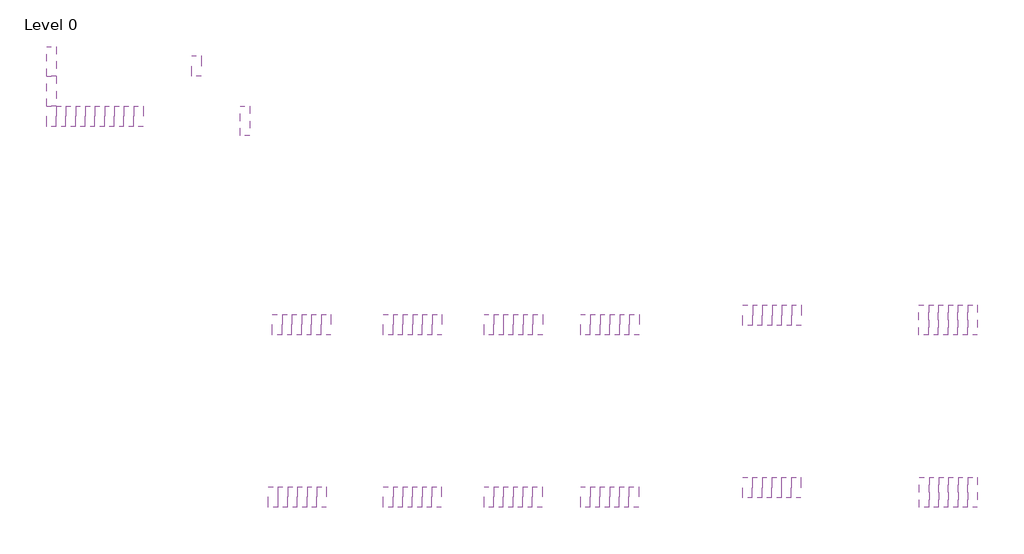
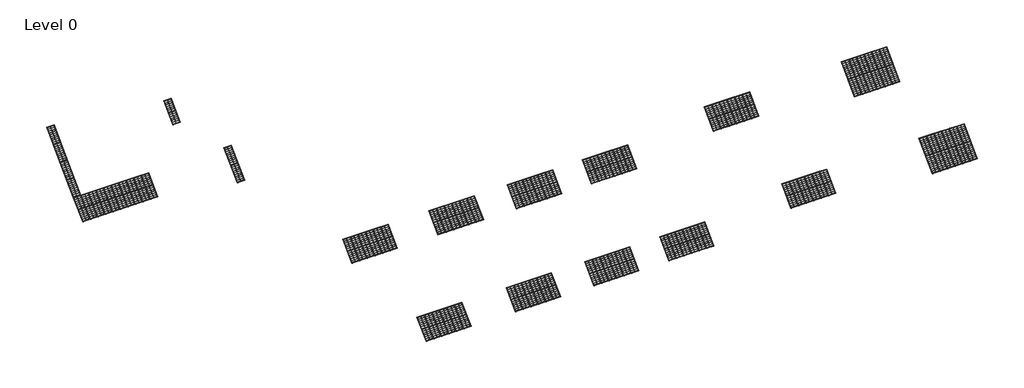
# One storey: 86 proxies.
"""IFC4 building model written with IfcOpenShell, lengths in millimetres."""

from ifc_helpers import new_model, si_unit, origin, place, context, project, spatial, transform, mapped, element, save
from components import specialty_equipment_90d8c1e8, specialty_equipment_4e519f52, specialty_equipment_16722cac, specialty_equipment_8a7c9f69, specialty_equipment_3c02a545, specialty_equipment_2c5f26d2

model = new_model("IFC4")

# Units and contexts
model_context = context("Model", 3, world=origin())
ifc_project = project(units=[si_unit("LENGTHUNIT", "METRE", prefix="MILLI")], contexts=[model_context])

# Site, building, storey
site = spatial("IfcSite", under=ifc_project)
building = spatial("IfcBuilding", under=site)
storey = spatial("IfcBuildingStorey", under=building, Name="Level 0", Elevation=0.0)

# Proxies
placement = place(None, origin())
specialty_equipment_shape = specialty_equipment_90d8c1e8(model_context)
element("IfcBuildingElementProxy", 1, Name="Construction-Roof_Roofit-Solar_velario-slim-t-2x18-180 : Velario Slim T-2x18/180", ObjectType="Construction-Roof_Roofit-Solar_velario-slim-t-2x18-180 : Velario Slim T-2x18/180", at=placement, inside=storey, context=model_context, shape_type="MappedRepresentation", body=[
    mapped(specialty_equipment_shape, transform((66153.258978, -14131.8745648, 4725.1380041), x_axis=(-1.0, 0.0, 0.0), y_axis=(0.0, -0.7071067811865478, -0.7071067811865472), z_axis=(0.0, -0.7071067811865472, 0.7071067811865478))),
])
element("IfcBuildingElementProxy", 2, Name="Construction-Roof_Roofit-Solar_velario-slim-t-2x18-180 : Velario Slim T-2x18/180", ObjectType="Construction-Roof_Roofit-Solar_velario-slim-t-2x18-180 : Velario Slim T-2x18/180", at=placement, inside=storey, context=model_context, shape_type="MappedRepresentation", body=[
    mapped(specialty_equipment_shape, transform((65682.258978, -14131.8745648, 4725.1380041), x_axis=(-1.0, 0.0, 0.0), y_axis=(0.0, -0.7071067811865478, -0.7071067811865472), z_axis=(0.0, -0.7071067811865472, 0.7071067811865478))),
])
element("IfcBuildingElementProxy", 3, Name="Construction-Roof_Roofit-Solar_velario-slim-t-2x18-180 : Velario Slim T-2x18/180", ObjectType="Construction-Roof_Roofit-Solar_velario-slim-t-2x18-180 : Velario Slim T-2x18/180", at=placement, inside=storey, context=model_context, shape_type="MappedRepresentation", body=[
    mapped(specialty_equipment_shape, transform((65211.258978, -14131.8745648, 4725.1380041), x_axis=(-1.0, 0.0, 0.0), y_axis=(0.0, -0.7071067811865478, -0.7071067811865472), z_axis=(0.0, -0.7071067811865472, 0.7071067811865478))),
])
element("IfcBuildingElementProxy", 4, Name="Construction-Roof_Roofit-Solar_velario-slim-t-2x18-180 : Velario Slim T-2x18/180", ObjectType="Construction-Roof_Roofit-Solar_velario-slim-t-2x18-180 : Velario Slim T-2x18/180", at=placement, inside=storey, context=model_context, shape_type="MappedRepresentation", body=[
    mapped(specialty_equipment_shape, transform((64740.258978, -14131.8745648, 4725.1380041), x_axis=(-1.0, 0.0, 0.0), y_axis=(0.0, -0.7071067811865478, -0.7071067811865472), z_axis=(0.0, -0.7071067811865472, 0.7071067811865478))),
])
element("IfcBuildingElementProxy", 5, Name="Construction-Roof_Roofit-Solar_velario-slim-t-2x18-180 : Velario Slim T-2x18/180", ObjectType="Construction-Roof_Roofit-Solar_velario-slim-t-2x18-180 : Velario Slim T-2x18/180", at=placement, inside=storey, context=model_context, shape_type="MappedRepresentation", body=[
    mapped(specialty_equipment_shape, transform((66624.258978, -14131.8745648, 4725.1380041), x_axis=(-1.0, 0.0, 0.0), y_axis=(0.0, -0.7071067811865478, -0.7071067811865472), z_axis=(0.0, -0.7071067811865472, 0.7071067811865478))),
])
element("IfcBuildingElementProxy", 6, Name="Construction-Roof_Roofit-Solar_velario-slim-t-2x18-180 : Velario Slim T-2x18/180", ObjectType="Construction-Roof_Roofit-Solar_velario-slim-t-2x18-180 : Velario Slim T-2x18/180", at=placement, inside=storey, context=model_context, shape_type="MappedRepresentation", body=[
    mapped(specialty_equipment_shape, transform((67095.258978, -14131.8745648, 4725.1380041), x_axis=(-1.0, 0.0, 0.0), y_axis=(0.0, -0.7071067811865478, -0.7071067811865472), z_axis=(0.0, -0.7071067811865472, 0.7071067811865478))),
])
element("IfcBuildingElementProxy", 7, Name="Construction-Roof_Roofit-Solar_velario-slim-t-2x18-180 : Velario Slim T-2x18/180", ObjectType="Construction-Roof_Roofit-Solar_velario-slim-t-2x18-180 : Velario Slim T-2x18/180", at=placement, inside=storey, context=model_context, shape_type="MappedRepresentation", body=[
    mapped(specialty_equipment_shape, transform((22240.258978, 5411.2263464, 6175.4140123), x_axis=(-1.0, 0.0, 0.0), y_axis=(0.0, -0.7071067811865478, -0.7071067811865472), z_axis=(0.0, -0.7071067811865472, 0.7071067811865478))),
])
element("IfcBuildingElementProxy", 8, Name="Construction-Roof_Roofit-Solar_velario-slim-t-2x18-180 : Velario Slim T-2x18/180", ObjectType="Construction-Roof_Roofit-Solar_velario-slim-t-2x18-180 : Velario Slim T-2x18/180", at=placement, inside=storey, context=model_context, shape_type="MappedRepresentation", body=[
    mapped(specialty_equipment_shape, transform((22240.258978, 6861.5023546, 7625.6900205), x_axis=(-1.0, 0.0, 0.0), y_axis=(0.0, -0.7071067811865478, -0.7071067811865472), z_axis=(0.0, -0.7071067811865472, 0.7071067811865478))),
])
element("IfcBuildingElementProxy", 9, Name="Construction-Roof_Roofit-Solar_velario-slim-t-2x18-180 : Velario Slim T-2x18/180", ObjectType="Construction-Roof_Roofit-Solar_velario-slim-t-2x18-180 : Velario Slim T-2x18/180", at=placement, inside=storey, context=model_context, shape_type="MappedRepresentation", body=[
    mapped(specialty_equipment_shape, transform((31660.258978, 3960.9503382, 4725.1380041), x_axis=(-1.0, 0.0, 0.0), y_axis=(0.0, -0.7071067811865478, -0.7071067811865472), z_axis=(0.0, -0.7071067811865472, 0.7071067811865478))),
])
specialty_equipment_2_shape = specialty_equipment_4e519f52(model_context)
element("IfcBuildingElementProxy", 10, Name="Construction-Roof_Roofit-Solar_velario-slim-t-2x18-120 : Velario Slim T-2x12/120", ObjectType="Construction-Roof_Roofit-Solar_velario-slim-t-2x18-120 : Velario Slim T-2x12/120", at=placement, inside=storey, context=model_context, shape_type="MappedRepresentation", body=[
    mapped(specialty_equipment_2_shape, transform((40995.258978, -14358.8558415, 4498.1567273), x_axis=(-1.0, 0.0, 0.0), y_axis=(0.0, -0.7071067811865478, -0.7071067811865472), z_axis=(0.0, -0.7071067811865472, 0.7071067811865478))),
])
element("IfcBuildingElementProxy", 11, Name="Construction-Roof_Roofit-Solar_velario-slim-t-2x18-120 : Velario Slim T-2x12/120", ObjectType="Construction-Roof_Roofit-Solar_velario-slim-t-2x18-120 : Velario Slim T-2x12/120", at=placement, inside=storey, context=model_context, shape_type="MappedRepresentation", body=[
    mapped(specialty_equipment_2_shape, transform((40524.258978, -14358.8558415, 4498.1567273), x_axis=(-1.0, 0.0, 0.0), y_axis=(0.0, -0.7071067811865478, -0.7071067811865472), z_axis=(0.0, -0.7071067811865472, 0.7071067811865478))),
])
element("IfcBuildingElementProxy", 12, Name="Construction-Roof_Roofit-Solar_velario-slim-t-2x18-120 : Velario Slim T-2x12/120", ObjectType="Construction-Roof_Roofit-Solar_velario-slim-t-2x18-120 : Velario Slim T-2x12/120", at=placement, inside=storey, context=model_context, shape_type="MappedRepresentation", body=[
    mapped(specialty_equipment_2_shape, transform((40053.258978, -14358.8558415, 4498.1567273), x_axis=(-1.0, 0.0, 0.0), y_axis=(0.0, -0.7071067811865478, -0.7071067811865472), z_axis=(0.0, -0.7071067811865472, 0.7071067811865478))),
])
element("IfcBuildingElementProxy", 13, Name="Construction-Roof_Roofit-Solar_velario-slim-t-2x18-120 : Velario Slim T-2x12/120", ObjectType="Construction-Roof_Roofit-Solar_velario-slim-t-2x18-120 : Velario Slim T-2x12/120", at=placement, inside=storey, context=model_context, shape_type="MappedRepresentation", body=[
    mapped(specialty_equipment_2_shape, transform((39582.258978, -14358.8558415, 4498.1567273), x_axis=(-1.0, 0.0, 0.0), y_axis=(0.0, -0.7071067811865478, -0.7071067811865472), z_axis=(0.0, -0.7071067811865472, 0.7071067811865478))),
])
element("IfcBuildingElementProxy", 14, Name="Construction-Roof_Roofit-Solar_velario-slim-t-2x18-120 : Velario Slim T-2x12/120", ObjectType="Construction-Roof_Roofit-Solar_velario-slim-t-2x18-120 : Velario Slim T-2x12/120", at=placement, inside=storey, context=model_context, shape_type="MappedRepresentation", body=[
    mapped(specialty_equipment_2_shape, transform((39111.258978, -14358.8558415, 4498.1567273), x_axis=(-1.0, 0.0, 0.0), y_axis=(0.0, -0.7071067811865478, -0.7071067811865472), z_axis=(0.0, -0.7071067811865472, 0.7071067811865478))),
])
element("IfcBuildingElementProxy", 15, Name="Construction-Roof_Roofit-Solar_velario-slim-t-2x18-120 : Velario Slim T-2x12/120", ObjectType="Construction-Roof_Roofit-Solar_velario-slim-t-2x18-120 : Velario Slim T-2x12/120", at=placement, inside=storey, context=model_context, shape_type="MappedRepresentation", body=[
    mapped(specialty_equipment_2_shape, transform((38640.258978, -14358.8558415, 4498.1567273), x_axis=(-1.0, 0.0, 0.0), y_axis=(0.0, -0.7071067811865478, -0.7071067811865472), z_axis=(0.0, -0.7071067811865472, 0.7071067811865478))),
])
element("IfcBuildingElementProxy", 16, Name="Construction-Roof_Roofit-Solar_velario-slim-t-2x18-120 : Velario Slim T-2x12/120", ObjectType="Construction-Roof_Roofit-Solar_velario-slim-t-2x18-120 : Velario Slim T-2x12/120", at=placement, inside=storey, context=model_context, shape_type="MappedRepresentation", body=[
    mapped(specialty_equipment_2_shape, transform((45895.258978, -14358.8558415, 4498.1567273), x_axis=(-1.0, 0.0, 0.0), y_axis=(0.0, -0.7071067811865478, -0.7071067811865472), z_axis=(0.0, -0.7071067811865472, 0.7071067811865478))),
])
element("IfcBuildingElementProxy", 17, Name="Construction-Roof_Roofit-Solar_velario-slim-t-2x18-120 : Velario Slim T-2x12/120", ObjectType="Construction-Roof_Roofit-Solar_velario-slim-t-2x18-120 : Velario Slim T-2x12/120", at=placement, inside=storey, context=model_context, shape_type="MappedRepresentation", body=[
    mapped(specialty_equipment_2_shape, transform((45424.258978, -14358.8558415, 4498.1567273), x_axis=(-1.0, 0.0, 0.0), y_axis=(0.0, -0.7071067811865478, -0.7071067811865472), z_axis=(0.0, -0.7071067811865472, 0.7071067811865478))),
])
element("IfcBuildingElementProxy", 18, Name="Construction-Roof_Roofit-Solar_velario-slim-t-2x18-120 : Velario Slim T-2x12/120", ObjectType="Construction-Roof_Roofit-Solar_velario-slim-t-2x18-120 : Velario Slim T-2x12/120", at=placement, inside=storey, context=model_context, shape_type="MappedRepresentation", body=[
    mapped(specialty_equipment_2_shape, transform((44953.258978, -14358.8558415, 4498.1567273), x_axis=(-1.0, 0.0, 0.0), y_axis=(0.0, -0.7071067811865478, -0.7071067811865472), z_axis=(0.0, -0.7071067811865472, 0.7071067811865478))),
])
element("IfcBuildingElementProxy", 19, Name="Construction-Roof_Roofit-Solar_velario-slim-t-2x18-120 : Velario Slim T-2x12/120", ObjectType="Construction-Roof_Roofit-Solar_velario-slim-t-2x18-120 : Velario Slim T-2x12/120", at=placement, inside=storey, context=model_context, shape_type="MappedRepresentation", body=[
    mapped(specialty_equipment_2_shape, transform((44482.258978, -14358.8558415, 4498.1567273), x_axis=(-1.0, 0.0, 0.0), y_axis=(0.0, -0.7071067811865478, -0.7071067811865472), z_axis=(0.0, -0.7071067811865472, 0.7071067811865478))),
])
element("IfcBuildingElementProxy", 20, Name="Construction-Roof_Roofit-Solar_velario-slim-t-2x18-120 : Velario Slim T-2x12/120", ObjectType="Construction-Roof_Roofit-Solar_velario-slim-t-2x18-120 : Velario Slim T-2x12/120", at=placement, inside=storey, context=model_context, shape_type="MappedRepresentation", body=[
    mapped(specialty_equipment_2_shape, transform((44011.258978, -14358.8558415, 4498.1567273), x_axis=(-1.0, 0.0, 0.0), y_axis=(0.0, -0.7071067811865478, -0.7071067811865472), z_axis=(0.0, -0.7071067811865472, 0.7071067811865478))),
])
element("IfcBuildingElementProxy", 21, Name="Construction-Roof_Roofit-Solar_velario-slim-t-2x18-120 : Velario Slim T-2x12/120", ObjectType="Construction-Roof_Roofit-Solar_velario-slim-t-2x18-120 : Velario Slim T-2x12/120", at=placement, inside=storey, context=model_context, shape_type="MappedRepresentation", body=[
    mapped(specialty_equipment_2_shape, transform((43540.258978, -14358.8558415, 4498.1567273), x_axis=(-1.0, 0.0, 0.0), y_axis=(0.0, -0.7071067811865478, -0.7071067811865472), z_axis=(0.0, -0.7071067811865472, 0.7071067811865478))),
])
element("IfcBuildingElementProxy", 22, Name="Construction-Roof_Roofit-Solar_velario-slim-t-2x18-120 : Velario Slim T-2x12/120", ObjectType="Construction-Roof_Roofit-Solar_velario-slim-t-2x18-120 : Velario Slim T-2x12/120", at=placement, inside=storey, context=model_context, shape_type="MappedRepresentation", body=[
    mapped(specialty_equipment_2_shape, transform((50595.258978, -14358.8558415, 4498.1567273), x_axis=(-1.0, 0.0, 0.0), y_axis=(0.0, -0.7071067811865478, -0.7071067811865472), z_axis=(0.0, -0.7071067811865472, 0.7071067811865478))),
])
element("IfcBuildingElementProxy", 23, Name="Construction-Roof_Roofit-Solar_velario-slim-t-2x18-120 : Velario Slim T-2x12/120", ObjectType="Construction-Roof_Roofit-Solar_velario-slim-t-2x18-120 : Velario Slim T-2x12/120", at=placement, inside=storey, context=model_context, shape_type="MappedRepresentation", body=[
    mapped(specialty_equipment_2_shape, transform((50124.258978, -14358.8558415, 4498.1567273), x_axis=(-1.0, 0.0, 0.0), y_axis=(0.0, -0.7071067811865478, -0.7071067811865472), z_axis=(0.0, -0.7071067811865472, 0.7071067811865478))),
])
element("IfcBuildingElementProxy", 24, Name="Construction-Roof_Roofit-Solar_velario-slim-t-2x18-120 : Velario Slim T-2x12/120", ObjectType="Construction-Roof_Roofit-Solar_velario-slim-t-2x18-120 : Velario Slim T-2x12/120", at=placement, inside=storey, context=model_context, shape_type="MappedRepresentation", body=[
    mapped(specialty_equipment_2_shape, transform((49653.258978, -14358.8558415, 4498.1567273), x_axis=(-1.0, 0.0, 0.0), y_axis=(0.0, -0.7071067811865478, -0.7071067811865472), z_axis=(0.0, -0.7071067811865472, 0.7071067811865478))),
])
element("IfcBuildingElementProxy", 25, Name="Construction-Roof_Roofit-Solar_velario-slim-t-2x18-120 : Velario Slim T-2x12/120", ObjectType="Construction-Roof_Roofit-Solar_velario-slim-t-2x18-120 : Velario Slim T-2x12/120", at=placement, inside=storey, context=model_context, shape_type="MappedRepresentation", body=[
    mapped(specialty_equipment_2_shape, transform((49182.258978, -14358.8558415, 4498.1567273), x_axis=(-1.0, 0.0, 0.0), y_axis=(0.0, -0.7071067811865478, -0.7071067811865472), z_axis=(0.0, -0.7071067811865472, 0.7071067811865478))),
])
element("IfcBuildingElementProxy", 26, Name="Construction-Roof_Roofit-Solar_velario-slim-t-2x18-120 : Velario Slim T-2x12/120", ObjectType="Construction-Roof_Roofit-Solar_velario-slim-t-2x18-120 : Velario Slim T-2x12/120", at=placement, inside=storey, context=model_context, shape_type="MappedRepresentation", body=[
    mapped(specialty_equipment_2_shape, transform((48711.258978, -14358.8558415, 4498.1567273), x_axis=(-1.0, 0.0, 0.0), y_axis=(0.0, -0.7071067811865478, -0.7071067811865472), z_axis=(0.0, -0.7071067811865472, 0.7071067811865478))),
])
element("IfcBuildingElementProxy", 27, Name="Construction-Roof_Roofit-Solar_velario-slim-t-2x18-120 : Velario Slim T-2x12/120", ObjectType="Construction-Roof_Roofit-Solar_velario-slim-t-2x18-120 : Velario Slim T-2x12/120", at=placement, inside=storey, context=model_context, shape_type="MappedRepresentation", body=[
    mapped(specialty_equipment_2_shape, transform((48240.258978, -14358.8558415, 4498.1567273), x_axis=(-1.0, 0.0, 0.0), y_axis=(0.0, -0.7071067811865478, -0.7071067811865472), z_axis=(0.0, -0.7071067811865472, 0.7071067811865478))),
])
element("IfcBuildingElementProxy", 28, Name="Construction-Roof_Roofit-Solar_velario-slim-t-2x18-120 : Velario Slim T-2x12/120", ObjectType="Construction-Roof_Roofit-Solar_velario-slim-t-2x18-120 : Velario Slim T-2x12/120", at=placement, inside=storey, context=model_context, shape_type="MappedRepresentation", body=[
    mapped(specialty_equipment_2_shape, transform((29305.258978, 6634.5210778, 7398.7087438), x_axis=(-1.0, 0.0, 0.0), y_axis=(0.0, -0.7071067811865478, -0.7071067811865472), z_axis=(0.0, -0.7071067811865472, 0.7071067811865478))),
])
element("IfcBuildingElementProxy", 29, Name="Construction-Roof_Roofit-Solar_velario-slim-t-2x18-120 : Velario Slim T-2x12/120", ObjectType="Construction-Roof_Roofit-Solar_velario-slim-t-2x18-120 : Velario Slim T-2x12/120", at=placement, inside=storey, context=model_context, shape_type="MappedRepresentation", body=[
    mapped(specialty_equipment_2_shape, transform((35395.258978, -14358.8558415, 4498.1567273), x_axis=(-1.0, 0.0, 0.0), y_axis=(0.0, -0.7071067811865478, -0.7071067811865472), z_axis=(0.0, -0.7071067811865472, 0.7071067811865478))),
])
element("IfcBuildingElementProxy", 30, Name="Construction-Roof_Roofit-Solar_velario-slim-t-2x18-120 : Velario Slim T-2x12/120", ObjectType="Construction-Roof_Roofit-Solar_velario-slim-t-2x18-120 : Velario Slim T-2x12/120", at=placement, inside=storey, context=model_context, shape_type="MappedRepresentation", body=[
    mapped(specialty_equipment_2_shape, transform((34924.258978, -14358.8558415, 4498.1567273), x_axis=(-1.0, 0.0, 0.0), y_axis=(0.0, -0.7071067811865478, -0.7071067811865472), z_axis=(0.0, -0.7071067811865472, 0.7071067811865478))),
])
element("IfcBuildingElementProxy", 31, Name="Construction-Roof_Roofit-Solar_velario-slim-t-2x18-120 : Velario Slim T-2x12/120", ObjectType="Construction-Roof_Roofit-Solar_velario-slim-t-2x18-120 : Velario Slim T-2x12/120", at=placement, inside=storey, context=model_context, shape_type="MappedRepresentation", body=[
    mapped(specialty_equipment_2_shape, transform((34453.258978, -14358.8558415, 4498.1567273), x_axis=(-1.0, 0.0, 0.0), y_axis=(0.0, -0.7071067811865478, -0.7071067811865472), z_axis=(0.0, -0.7071067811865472, 0.7071067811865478))),
])
element("IfcBuildingElementProxy", 32, Name="Construction-Roof_Roofit-Solar_velario-slim-t-2x18-120 : Velario Slim T-2x12/120", ObjectType="Construction-Roof_Roofit-Solar_velario-slim-t-2x18-120 : Velario Slim T-2x12/120", at=placement, inside=storey, context=model_context, shape_type="MappedRepresentation", body=[
    mapped(specialty_equipment_2_shape, transform((33982.258978, -14358.8558415, 4498.1567273), x_axis=(-1.0, 0.0, 0.0), y_axis=(0.0, -0.7071067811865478, -0.7071067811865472), z_axis=(0.0, -0.7071067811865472, 0.7071067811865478))),
])
element("IfcBuildingElementProxy", 33, Name="Construction-Roof_Roofit-Solar_velario-slim-t-2x18-120 : Velario Slim T-2x12/120", ObjectType="Construction-Roof_Roofit-Solar_velario-slim-t-2x18-120 : Velario Slim T-2x12/120", at=placement, inside=storey, context=model_context, shape_type="MappedRepresentation", body=[
    mapped(specialty_equipment_2_shape, transform((33511.258978, -14358.8558415, 4498.1567273), x_axis=(-1.0, 0.0, 0.0), y_axis=(0.0, -0.7071067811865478, -0.7071067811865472), z_axis=(0.0, -0.7071067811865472, 0.7071067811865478))),
])
element("IfcBuildingElementProxy", 34, Name="Construction-Roof_Roofit-Solar_velario-slim-t-2x18-120 : Velario Slim T-2x12/120", ObjectType="Construction-Roof_Roofit-Solar_velario-slim-t-2x18-120 : Velario Slim T-2x12/120", at=placement, inside=storey, context=model_context, shape_type="MappedRepresentation", body=[
    mapped(specialty_equipment_2_shape, transform((33040.258978, -14358.8558415, 4498.1567273), x_axis=(-1.0, 0.0, 0.0), y_axis=(0.0, -0.7071067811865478, -0.7071067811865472), z_axis=(0.0, -0.7071067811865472, 0.7071067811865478))),
])
specialty_equipment_3_shape = specialty_equipment_16722cac(model_context)
element("IfcBuildingElementProxy", 35, Name="Construction-Roof_Roofit-Solar_velario-slim-t-2x12-120-sg : Velario Slim T-2x12/120 Snowguard", ObjectType="Construction-Roof_Roofit-Solar_velario-slim-t-2x12-120-sg : Velario Slim T-2x12/120 Snowguard", at=placement, inside=storey, context=model_context, shape_type="MappedRepresentation", body=[
    mapped(specialty_equipment_3_shape, transform((56140.258978, -13907.7217151, 4949.2908537), x_axis=(-1.0, 0.0, 0.0), y_axis=(0.0, -0.7071067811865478, -0.7071067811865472), z_axis=(0.0, -0.7071067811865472, 0.7071067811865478))),
])
element("IfcBuildingElementProxy", 36, Name="Construction-Roof_Roofit-Solar_velario-slim-t-2x12-120-sg : Velario Slim T-2x12/120 Snowguard", ObjectType="Construction-Roof_Roofit-Solar_velario-slim-t-2x12-120-sg : Velario Slim T-2x12/120 Snowguard", at=placement, inside=storey, context=model_context, shape_type="MappedRepresentation", body=[
    mapped(specialty_equipment_3_shape, transform((56611.258978, -13907.7217151, 4949.2908537), x_axis=(-1.0, 0.0, 0.0), y_axis=(0.0, -0.7071067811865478, -0.7071067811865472), z_axis=(0.0, -0.7071067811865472, 0.7071067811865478))),
])
element("IfcBuildingElementProxy", 37, Name="Construction-Roof_Roofit-Solar_velario-slim-t-2x12-120-sg : Velario Slim T-2x12/120 Snowguard", ObjectType="Construction-Roof_Roofit-Solar_velario-slim-t-2x12-120-sg : Velario Slim T-2x12/120 Snowguard", at=placement, inside=storey, context=model_context, shape_type="MappedRepresentation", body=[
    mapped(specialty_equipment_3_shape, transform((57082.258978, -13907.7217151, 4949.2908537), x_axis=(-1.0, 0.0, 0.0), y_axis=(0.0, -0.7071067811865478, -0.7071067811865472), z_axis=(0.0, -0.7071067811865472, 0.7071067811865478))),
])
element("IfcBuildingElementProxy", 38, Name="Construction-Roof_Roofit-Solar_velario-slim-t-2x12-120-sg : Velario Slim T-2x12/120 Snowguard", ObjectType="Construction-Roof_Roofit-Solar_velario-slim-t-2x12-120-sg : Velario Slim T-2x12/120 Snowguard", at=placement, inside=storey, context=model_context, shape_type="MappedRepresentation", body=[
    mapped(specialty_equipment_3_shape, transform((57553.258978, -13907.7217151, 4949.2908537), x_axis=(-1.0, 0.0, 0.0), y_axis=(0.0, -0.7071067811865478, -0.7071067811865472), z_axis=(0.0, -0.7071067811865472, 0.7071067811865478))),
])
element("IfcBuildingElementProxy", 39, Name="Construction-Roof_Roofit-Solar_velario-slim-t-2x12-120-sg : Velario Slim T-2x12/120 Snowguard", ObjectType="Construction-Roof_Roofit-Solar_velario-slim-t-2x12-120-sg : Velario Slim T-2x12/120 Snowguard", at=placement, inside=storey, context=model_context, shape_type="MappedRepresentation", body=[
    mapped(specialty_equipment_3_shape, transform((58024.258978, -13907.7217151, 4949.2908537), x_axis=(-1.0, 0.0, 0.0), y_axis=(0.0, -0.7071067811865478, -0.7071067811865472), z_axis=(0.0, -0.7071067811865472, 0.7071067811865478))),
])
element("IfcBuildingElementProxy", 40, Name="Construction-Roof_Roofit-Solar_velario-slim-t-2x12-120-sg : Velario Slim T-2x12/120 Snowguard", ObjectType="Construction-Roof_Roofit-Solar_velario-slim-t-2x12-120-sg : Velario Slim T-2x12/120 Snowguard", at=placement, inside=storey, context=model_context, shape_type="MappedRepresentation", body=[
    mapped(specialty_equipment_3_shape, transform((58495.258978, -13907.7217151, 4949.2908537), x_axis=(-1.0, 0.0, 0.0), y_axis=(0.0, -0.7071067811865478, -0.7071067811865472), z_axis=(0.0, -0.7071067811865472, 0.7071067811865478))),
])
element("IfcBuildingElementProxy", 41, Name="Construction-Roof_Roofit-Solar_velario-slim-t-2x12-120-sg : Velario Slim T-2x12/120 Snowguard", ObjectType="Construction-Roof_Roofit-Solar_velario-slim-t-2x12-120-sg : Velario Slim T-2x12/120 Snowguard", at=placement, inside=storey, context=model_context, shape_type="MappedRepresentation", body=[
    mapped(specialty_equipment_3_shape, transform((22240.258978, 4185.1031878, 4949.2908537), x_axis=(-1.0, 0.0, 0.0), y_axis=(0.0, -0.7071067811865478, -0.7071067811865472), z_axis=(0.0, -0.7071067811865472, 0.7071067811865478))),
])
element("IfcBuildingElementProxy", 42, Name="Construction-Roof_Roofit-Solar_velario-slim-t-2x12-120-sg : Velario Slim T-2x12/120 Snowguard", ObjectType="Construction-Roof_Roofit-Solar_velario-slim-t-2x12-120-sg : Velario Slim T-2x12/120 Snowguard", at=placement, inside=storey, context=model_context, shape_type="MappedRepresentation", body=[
    mapped(specialty_equipment_3_shape, transform((22711.258978, 4185.1031878, 4949.2908537), x_axis=(-1.0, 0.0, 0.0), y_axis=(0.0, -0.7071067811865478, -0.7071067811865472), z_axis=(0.0, -0.7071067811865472, 0.7071067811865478))),
])
element("IfcBuildingElementProxy", 43, Name="Construction-Roof_Roofit-Solar_velario-slim-t-2x12-120-sg : Velario Slim T-2x12/120 Snowguard", ObjectType="Construction-Roof_Roofit-Solar_velario-slim-t-2x12-120-sg : Velario Slim T-2x12/120 Snowguard", at=placement, inside=storey, context=model_context, shape_type="MappedRepresentation", body=[
    mapped(specialty_equipment_3_shape, transform((23182.258978, 4185.1031878, 4949.2908537), x_axis=(-1.0, 0.0, 0.0), y_axis=(0.0, -0.7071067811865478, -0.7071067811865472), z_axis=(0.0, -0.7071067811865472, 0.7071067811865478))),
])
element("IfcBuildingElementProxy", 44, Name="Construction-Roof_Roofit-Solar_velario-slim-t-2x12-120-sg : Velario Slim T-2x12/120 Snowguard", ObjectType="Construction-Roof_Roofit-Solar_velario-slim-t-2x12-120-sg : Velario Slim T-2x12/120 Snowguard", at=placement, inside=storey, context=model_context, shape_type="MappedRepresentation", body=[
    mapped(specialty_equipment_3_shape, transform((23653.258978, 4185.1031878, 4949.2908537), x_axis=(-1.0, 0.0, 0.0), y_axis=(0.0, -0.7071067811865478, -0.7071067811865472), z_axis=(0.0, -0.7071067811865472, 0.7071067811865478))),
])
element("IfcBuildingElementProxy", 45, Name="Construction-Roof_Roofit-Solar_velario-slim-t-2x12-120-sg : Velario Slim T-2x12/120 Snowguard", ObjectType="Construction-Roof_Roofit-Solar_velario-slim-t-2x12-120-sg : Velario Slim T-2x12/120 Snowguard", at=placement, inside=storey, context=model_context, shape_type="MappedRepresentation", body=[
    mapped(specialty_equipment_3_shape, transform((24124.258978, 4185.1031878, 4949.2908537), x_axis=(-1.0, 0.0, 0.0), y_axis=(0.0, -0.7071067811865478, -0.7071067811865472), z_axis=(0.0, -0.7071067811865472, 0.7071067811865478))),
])
element("IfcBuildingElementProxy", 46, Name="Construction-Roof_Roofit-Solar_velario-slim-t-2x12-120-sg : Velario Slim T-2x12/120 Snowguard", ObjectType="Construction-Roof_Roofit-Solar_velario-slim-t-2x12-120-sg : Velario Slim T-2x12/120 Snowguard", at=placement, inside=storey, context=model_context, shape_type="MappedRepresentation", body=[
    mapped(specialty_equipment_3_shape, transform((24595.258978, 4185.1031878, 4949.2908537), x_axis=(-1.0, 0.0, 0.0), y_axis=(0.0, -0.7071067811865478, -0.7071067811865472), z_axis=(0.0, -0.7071067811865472, 0.7071067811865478))),
])
element("IfcBuildingElementProxy", 47, Name="Construction-Roof_Roofit-Solar_velario-slim-t-2x12-120-sg : Velario Slim T-2x12/120 Snowguard", ObjectType="Construction-Roof_Roofit-Solar_velario-slim-t-2x12-120-sg : Velario Slim T-2x12/120 Snowguard", at=placement, inside=storey, context=model_context, shape_type="MappedRepresentation", body=[
    mapped(specialty_equipment_3_shape, transform((25066.258978, 4185.1031878, 4949.2908537), x_axis=(-1.0, 0.0, 0.0), y_axis=(0.0, -0.7071067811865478, -0.7071067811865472), z_axis=(0.0, -0.7071067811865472, 0.7071067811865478))),
])
element("IfcBuildingElementProxy", 48, Name="Construction-Roof_Roofit-Solar_velario-slim-t-2x12-120-sg : Velario Slim T-2x12/120 Snowguard", ObjectType="Construction-Roof_Roofit-Solar_velario-slim-t-2x12-120-sg : Velario Slim T-2x12/120 Snowguard", at=placement, inside=storey, context=model_context, shape_type="MappedRepresentation", body=[
    mapped(specialty_equipment_3_shape, transform((25537.258978, 4185.1031878, 4949.2908537), x_axis=(-1.0, 0.0, 0.0), y_axis=(0.0, -0.7071067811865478, -0.7071067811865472), z_axis=(0.0, -0.7071067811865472, 0.7071067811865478))),
])
element("IfcBuildingElementProxy", 49, Name="Construction-Roof_Roofit-Solar_velario-slim-t-2x12-120-sg : Velario Slim T-2x12/120 Snowguard", ObjectType="Construction-Roof_Roofit-Solar_velario-slim-t-2x12-120-sg : Velario Slim T-2x12/120 Snowguard", at=placement, inside=storey, context=model_context, shape_type="MappedRepresentation", body=[
    mapped(specialty_equipment_3_shape, transform((26008.258978, 4185.1031878, 4949.2908537), x_axis=(-1.0, 0.0, 0.0), y_axis=(0.0, -0.7071067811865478, -0.7071067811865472), z_axis=(0.0, -0.7071067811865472, 0.7071067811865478))),
])
element("IfcBuildingElementProxy", 50, Name="Construction-Roof_Roofit-Solar_velario-slim-t-2x12-120-sg : Velario Slim T-2x12/120 Snowguard", ObjectType="Construction-Roof_Roofit-Solar_velario-slim-t-2x12-120-sg : Velario Slim T-2x12/120 Snowguard", at=placement, inside=storey, context=model_context, shape_type="MappedRepresentation", body=[
    mapped(specialty_equipment_3_shape, transform((26479.258978, 4185.1031878, 4949.2908537), x_axis=(-1.0, 0.0, 0.0), y_axis=(0.0, -0.7071067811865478, -0.7071067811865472), z_axis=(0.0, -0.7071067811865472, 0.7071067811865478))),
])
specialty_equipment_4_shape = specialty_equipment_8a7c9f69(model_context)
element("IfcBuildingElementProxy", 51, Name="Construction-Roof_Roofit-Solar_nu-click-t-2x18-120 : NuClick T-2x12/120", ObjectType="Construction-Roof_Roofit-Solar_nu-click-t-2x18-120 : NuClick T-2x12/120", at=placement, inside=storey, context=model_context, shape_type="MappedRepresentation", body=[
    mapped(specialty_equipment_4_shape, transform((38642.258978, -5958.8558415, 4498.1567273), x_axis=(-1.0, 0.0, 0.0), y_axis=(0.0, -0.7071067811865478, -0.7071067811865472), z_axis=(0.0, -0.7071067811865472, 0.7071067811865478))),
])
element("IfcBuildingElementProxy", 52, Name="Construction-Roof_Roofit-Solar_nu-click-t-2x18-120 : NuClick T-2x12/120", ObjectType="Construction-Roof_Roofit-Solar_nu-click-t-2x18-120 : NuClick T-2x12/120", at=placement, inside=storey, context=model_context, shape_type="MappedRepresentation", body=[
    mapped(specialty_equipment_4_shape, transform((39117.258978, -5958.8558415, 4498.1567273), x_axis=(-1.0, 0.0, 0.0), y_axis=(0.0, -0.7071067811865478, -0.7071067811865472), z_axis=(0.0, -0.7071067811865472, 0.7071067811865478))),
])
element("IfcBuildingElementProxy", 53, Name="Construction-Roof_Roofit-Solar_nu-click-t-2x18-120 : NuClick T-2x12/120", ObjectType="Construction-Roof_Roofit-Solar_nu-click-t-2x18-120 : NuClick T-2x12/120", at=placement, inside=storey, context=model_context, shape_type="MappedRepresentation", body=[
    mapped(specialty_equipment_4_shape, transform((39592.258978, -5958.8558415, 4498.1567273), x_axis=(-1.0, 0.0, 0.0), y_axis=(0.0, -0.7071067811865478, -0.7071067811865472), z_axis=(0.0, -0.7071067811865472, 0.7071067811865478))),
])
element("IfcBuildingElementProxy", 54, Name="Construction-Roof_Roofit-Solar_nu-click-t-2x18-120 : NuClick T-2x12/120", ObjectType="Construction-Roof_Roofit-Solar_nu-click-t-2x18-120 : NuClick T-2x12/120", at=placement, inside=storey, context=model_context, shape_type="MappedRepresentation", body=[
    mapped(specialty_equipment_4_shape, transform((40067.258978, -5958.8558415, 4498.1567273), x_axis=(-1.0, 0.0, 0.0), y_axis=(0.0, -0.7071067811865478, -0.7071067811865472), z_axis=(0.0, -0.7071067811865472, 0.7071067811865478))),
])
element("IfcBuildingElementProxy", 55, Name="Construction-Roof_Roofit-Solar_nu-click-t-2x18-120 : NuClick T-2x12/120", ObjectType="Construction-Roof_Roofit-Solar_nu-click-t-2x18-120 : NuClick T-2x12/120", at=placement, inside=storey, context=model_context, shape_type="MappedRepresentation", body=[
    mapped(specialty_equipment_4_shape, transform((40542.258978, -5958.8558415, 4498.1567273), x_axis=(-1.0, 0.0, 0.0), y_axis=(0.0, -0.7071067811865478, -0.7071067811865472), z_axis=(0.0, -0.7071067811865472, 0.7071067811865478))),
])
element("IfcBuildingElementProxy", 56, Name="Construction-Roof_Roofit-Solar_nu-click-t-2x18-120 : NuClick T-2x12/120", ObjectType="Construction-Roof_Roofit-Solar_nu-click-t-2x18-120 : NuClick T-2x12/120", at=placement, inside=storey, context=model_context, shape_type="MappedRepresentation", body=[
    mapped(specialty_equipment_4_shape, transform((41017.258978, -5958.8558415, 4498.1567273), x_axis=(-1.0, 0.0, 0.0), y_axis=(0.0, -0.7071067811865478, -0.7071067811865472), z_axis=(0.0, -0.7071067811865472, 0.7071067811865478))),
])
element("IfcBuildingElementProxy", 57, Name="Construction-Roof_Roofit-Solar_nu-click-t-2x18-120 : NuClick T-2x12/120", ObjectType="Construction-Roof_Roofit-Solar_nu-click-t-2x18-120 : NuClick T-2x12/120", at=placement, inside=storey, context=model_context, shape_type="MappedRepresentation", body=[
    mapped(specialty_equipment_4_shape, transform((43542.258978, -5958.8558415, 4498.1567273), x_axis=(-1.0, 0.0, 0.0), y_axis=(0.0, -0.7071067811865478, -0.7071067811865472), z_axis=(0.0, -0.7071067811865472, 0.7071067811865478))),
])
element("IfcBuildingElementProxy", 58, Name="Construction-Roof_Roofit-Solar_nu-click-t-2x18-120 : NuClick T-2x12/120", ObjectType="Construction-Roof_Roofit-Solar_nu-click-t-2x18-120 : NuClick T-2x12/120", at=placement, inside=storey, context=model_context, shape_type="MappedRepresentation", body=[
    mapped(specialty_equipment_4_shape, transform((44017.258978, -5958.8558415, 4498.1567273), x_axis=(-1.0, 0.0, 0.0), y_axis=(0.0, -0.7071067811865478, -0.7071067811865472), z_axis=(0.0, -0.7071067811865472, 0.7071067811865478))),
])
element("IfcBuildingElementProxy", 59, Name="Construction-Roof_Roofit-Solar_nu-click-t-2x18-120 : NuClick T-2x12/120", ObjectType="Construction-Roof_Roofit-Solar_nu-click-t-2x18-120 : NuClick T-2x12/120", at=placement, inside=storey, context=model_context, shape_type="MappedRepresentation", body=[
    mapped(specialty_equipment_4_shape, transform((44492.258978, -5958.8558415, 4498.1567273), x_axis=(-1.0, 0.0, 0.0), y_axis=(0.0, -0.7071067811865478, -0.7071067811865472), z_axis=(0.0, -0.7071067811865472, 0.7071067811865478))),
])
element("IfcBuildingElementProxy", 60, Name="Construction-Roof_Roofit-Solar_nu-click-t-2x18-120 : NuClick T-2x12/120", ObjectType="Construction-Roof_Roofit-Solar_nu-click-t-2x18-120 : NuClick T-2x12/120", at=placement, inside=storey, context=model_context, shape_type="MappedRepresentation", body=[
    mapped(specialty_equipment_4_shape, transform((44967.258978, -5958.8558415, 4498.1567273), x_axis=(-1.0, 0.0, 0.0), y_axis=(0.0, -0.7071067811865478, -0.7071067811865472), z_axis=(0.0, -0.7071067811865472, 0.7071067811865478))),
])
element("IfcBuildingElementProxy", 61, Name="Construction-Roof_Roofit-Solar_nu-click-t-2x18-120 : NuClick T-2x12/120", ObjectType="Construction-Roof_Roofit-Solar_nu-click-t-2x18-120 : NuClick T-2x12/120", at=placement, inside=storey, context=model_context, shape_type="MappedRepresentation", body=[
    mapped(specialty_equipment_4_shape, transform((45442.258978, -5958.8558415, 4498.1567273), x_axis=(-1.0, 0.0, 0.0), y_axis=(0.0, -0.7071067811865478, -0.7071067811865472), z_axis=(0.0, -0.7071067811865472, 0.7071067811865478))),
])
element("IfcBuildingElementProxy", 62, Name="Construction-Roof_Roofit-Solar_nu-click-t-2x18-120 : NuClick T-2x12/120", ObjectType="Construction-Roof_Roofit-Solar_nu-click-t-2x18-120 : NuClick T-2x12/120", at=placement, inside=storey, context=model_context, shape_type="MappedRepresentation", body=[
    mapped(specialty_equipment_4_shape, transform((45917.258978, -5958.8558415, 4498.1567273), x_axis=(-1.0, 0.0, 0.0), y_axis=(0.0, -0.7071067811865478, -0.7071067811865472), z_axis=(0.0, -0.7071067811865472, 0.7071067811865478))),
])
element("IfcBuildingElementProxy", 63, Name="Construction-Roof_Roofit-Solar_nu-click-t-2x18-120 : NuClick T-2x12/120", ObjectType="Construction-Roof_Roofit-Solar_nu-click-t-2x18-120 : NuClick T-2x12/120", at=placement, inside=storey, context=model_context, shape_type="MappedRepresentation", body=[
    mapped(specialty_equipment_4_shape, transform((48242.258978, -5958.8558415, 4498.1567273), x_axis=(-1.0, 0.0, 0.0), y_axis=(0.0, -0.7071067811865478, -0.7071067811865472), z_axis=(0.0, -0.7071067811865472, 0.7071067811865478))),
])
element("IfcBuildingElementProxy", 64, Name="Construction-Roof_Roofit-Solar_nu-click-t-2x18-120 : NuClick T-2x12/120", ObjectType="Construction-Roof_Roofit-Solar_nu-click-t-2x18-120 : NuClick T-2x12/120", at=placement, inside=storey, context=model_context, shape_type="MappedRepresentation", body=[
    mapped(specialty_equipment_4_shape, transform((48717.258978, -5958.8558415, 4498.1567273), x_axis=(-1.0, 0.0, 0.0), y_axis=(0.0, -0.7071067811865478, -0.7071067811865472), z_axis=(0.0, -0.7071067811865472, 0.7071067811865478))),
])
element("IfcBuildingElementProxy", 65, Name="Construction-Roof_Roofit-Solar_nu-click-t-2x18-120 : NuClick T-2x12/120", ObjectType="Construction-Roof_Roofit-Solar_nu-click-t-2x18-120 : NuClick T-2x12/120", at=placement, inside=storey, context=model_context, shape_type="MappedRepresentation", body=[
    mapped(specialty_equipment_4_shape, transform((49192.258978, -5958.8558415, 4498.1567273), x_axis=(-1.0, 0.0, 0.0), y_axis=(0.0, -0.7071067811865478, -0.7071067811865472), z_axis=(0.0, -0.7071067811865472, 0.7071067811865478))),
])
element("IfcBuildingElementProxy", 66, Name="Construction-Roof_Roofit-Solar_nu-click-t-2x18-120 : NuClick T-2x12/120", ObjectType="Construction-Roof_Roofit-Solar_nu-click-t-2x18-120 : NuClick T-2x12/120", at=placement, inside=storey, context=model_context, shape_type="MappedRepresentation", body=[
    mapped(specialty_equipment_4_shape, transform((49667.258978, -5958.8558415, 4498.1567273), x_axis=(-1.0, 0.0, 0.0), y_axis=(0.0, -0.7071067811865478, -0.7071067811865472), z_axis=(0.0, -0.7071067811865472, 0.7071067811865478))),
])
element("IfcBuildingElementProxy", 67, Name="Construction-Roof_Roofit-Solar_nu-click-t-2x18-120 : NuClick T-2x12/120", ObjectType="Construction-Roof_Roofit-Solar_nu-click-t-2x18-120 : NuClick T-2x12/120", at=placement, inside=storey, context=model_context, shape_type="MappedRepresentation", body=[
    mapped(specialty_equipment_4_shape, transform((50142.258978, -5958.8558415, 4498.1567273), x_axis=(-1.0, 0.0, 0.0), y_axis=(0.0, -0.7071067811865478, -0.7071067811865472), z_axis=(0.0, -0.7071067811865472, 0.7071067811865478))),
])
element("IfcBuildingElementProxy", 68, Name="Construction-Roof_Roofit-Solar_nu-click-t-2x18-120 : NuClick T-2x12/120", ObjectType="Construction-Roof_Roofit-Solar_nu-click-t-2x18-120 : NuClick T-2x12/120", at=placement, inside=storey, context=model_context, shape_type="MappedRepresentation", body=[
    mapped(specialty_equipment_4_shape, transform((50617.258978, -5958.8558415, 4498.1567273), x_axis=(-1.0, 0.0, 0.0), y_axis=(0.0, -0.7071067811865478, -0.7071067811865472), z_axis=(0.0, -0.7071067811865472, 0.7071067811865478))),
])
element("IfcBuildingElementProxy", 69, Name="Construction-Roof_Roofit-Solar_nu-click-t-2x18-120 : NuClick T-2x12/120", ObjectType="Construction-Roof_Roofit-Solar_nu-click-t-2x18-120 : NuClick T-2x12/120", at=placement, inside=storey, context=model_context, shape_type="MappedRepresentation", body=[
    mapped(specialty_equipment_4_shape, transform((33242.258978, -5958.8558415, 4498.1567273), x_axis=(-1.0, 0.0, 0.0), y_axis=(0.0, -0.7071067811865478, -0.7071067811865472), z_axis=(0.0, -0.7071067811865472, 0.7071067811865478))),
])
element("IfcBuildingElementProxy", 70, Name="Construction-Roof_Roofit-Solar_nu-click-t-2x18-120 : NuClick T-2x12/120", ObjectType="Construction-Roof_Roofit-Solar_nu-click-t-2x18-120 : NuClick T-2x12/120", at=placement, inside=storey, context=model_context, shape_type="MappedRepresentation", body=[
    mapped(specialty_equipment_4_shape, transform((33717.258978, -5958.8558415, 4498.1567273), x_axis=(-1.0, 0.0, 0.0), y_axis=(0.0, -0.7071067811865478, -0.7071067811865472), z_axis=(0.0, -0.7071067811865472, 0.7071067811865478))),
])
element("IfcBuildingElementProxy", 71, Name="Construction-Roof_Roofit-Solar_nu-click-t-2x18-120 : NuClick T-2x12/120", ObjectType="Construction-Roof_Roofit-Solar_nu-click-t-2x18-120 : NuClick T-2x12/120", at=placement, inside=storey, context=model_context, shape_type="MappedRepresentation", body=[
    mapped(specialty_equipment_4_shape, transform((34192.258978, -5958.8558415, 4498.1567273), x_axis=(-1.0, 0.0, 0.0), y_axis=(0.0, -0.7071067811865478, -0.7071067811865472), z_axis=(0.0, -0.7071067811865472, 0.7071067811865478))),
])
element("IfcBuildingElementProxy", 72, Name="Construction-Roof_Roofit-Solar_nu-click-t-2x18-120 : NuClick T-2x12/120", ObjectType="Construction-Roof_Roofit-Solar_nu-click-t-2x18-120 : NuClick T-2x12/120", at=placement, inside=storey, context=model_context, shape_type="MappedRepresentation", body=[
    mapped(specialty_equipment_4_shape, transform((34667.258978, -5958.8558415, 4498.1567273), x_axis=(-1.0, 0.0, 0.0), y_axis=(0.0, -0.7071067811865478, -0.7071067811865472), z_axis=(0.0, -0.7071067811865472, 0.7071067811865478))),
])
element("IfcBuildingElementProxy", 73, Name="Construction-Roof_Roofit-Solar_nu-click-t-2x18-120 : NuClick T-2x12/120", ObjectType="Construction-Roof_Roofit-Solar_nu-click-t-2x18-120 : NuClick T-2x12/120", at=placement, inside=storey, context=model_context, shape_type="MappedRepresentation", body=[
    mapped(specialty_equipment_4_shape, transform((35142.258978, -5958.8558415, 4498.1567273), x_axis=(-1.0, 0.0, 0.0), y_axis=(0.0, -0.7071067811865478, -0.7071067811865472), z_axis=(0.0, -0.7071067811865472, 0.7071067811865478))),
])
element("IfcBuildingElementProxy", 74, Name="Construction-Roof_Roofit-Solar_nu-click-t-2x18-120 : NuClick T-2x12/120", ObjectType="Construction-Roof_Roofit-Solar_nu-click-t-2x18-120 : NuClick T-2x12/120", at=placement, inside=storey, context=model_context, shape_type="MappedRepresentation", body=[
    mapped(specialty_equipment_4_shape, transform((35617.258978, -5958.8558415, 4498.1567273), x_axis=(-1.0, 0.0, 0.0), y_axis=(0.0, -0.7071067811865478, -0.7071067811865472), z_axis=(0.0, -0.7071067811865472, 0.7071067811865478))),
])
specialty_equipment_5_shape = specialty_equipment_3c02a545(model_context)
element("IfcBuildingElementProxy", 75, Name="Construction-Roof_Roofit-Solar_nu-click-t-2x12-120-sg : NuClick T-2x12/120 Snowguard", ObjectType="Construction-Roof_Roofit-Solar_nu-click-t-2x12-120-sg : NuClick T-2x12/120 Snowguard", at=placement, inside=storey, context=model_context, shape_type="MappedRepresentation", body=[
    mapped(specialty_equipment_5_shape, transform((56142.258978, -5507.7217151, 4949.2908537), x_axis=(-1.0, 0.0, 0.0), y_axis=(0.0, -0.7071067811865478, -0.7071067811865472), z_axis=(0.0, -0.7071067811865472, 0.7071067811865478))),
])
element("IfcBuildingElementProxy", 76, Name="Construction-Roof_Roofit-Solar_nu-click-t-2x12-120-sg : NuClick T-2x12/120 Snowguard", ObjectType="Construction-Roof_Roofit-Solar_nu-click-t-2x12-120-sg : NuClick T-2x12/120 Snowguard", at=placement, inside=storey, context=model_context, shape_type="MappedRepresentation", body=[
    mapped(specialty_equipment_5_shape, transform((56617.258978, -5507.7217151, 4949.2908537), x_axis=(-1.0, 0.0, 0.0), y_axis=(0.0, -0.7071067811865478, -0.7071067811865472), z_axis=(0.0, -0.7071067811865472, 0.7071067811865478))),
])
element("IfcBuildingElementProxy", 77, Name="Construction-Roof_Roofit-Solar_nu-click-t-2x12-120-sg : NuClick T-2x12/120 Snowguard", ObjectType="Construction-Roof_Roofit-Solar_nu-click-t-2x12-120-sg : NuClick T-2x12/120 Snowguard", at=placement, inside=storey, context=model_context, shape_type="MappedRepresentation", body=[
    mapped(specialty_equipment_5_shape, transform((57092.258978, -5507.7217151, 4949.2908537), x_axis=(-1.0, 0.0, 0.0), y_axis=(0.0, -0.7071067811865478, -0.7071067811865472), z_axis=(0.0, -0.7071067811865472, 0.7071067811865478))),
])
element("IfcBuildingElementProxy", 78, Name="Construction-Roof_Roofit-Solar_nu-click-t-2x12-120-sg : NuClick T-2x12/120 Snowguard", ObjectType="Construction-Roof_Roofit-Solar_nu-click-t-2x12-120-sg : NuClick T-2x12/120 Snowguard", at=placement, inside=storey, context=model_context, shape_type="MappedRepresentation", body=[
    mapped(specialty_equipment_5_shape, transform((57567.258978, -5507.7217151, 4949.2908537), x_axis=(-1.0, 0.0, 0.0), y_axis=(0.0, -0.7071067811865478, -0.7071067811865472), z_axis=(0.0, -0.7071067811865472, 0.7071067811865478))),
])
element("IfcBuildingElementProxy", 79, Name="Construction-Roof_Roofit-Solar_nu-click-t-2x12-120-sg : NuClick T-2x12/120 Snowguard", ObjectType="Construction-Roof_Roofit-Solar_nu-click-t-2x12-120-sg : NuClick T-2x12/120 Snowguard", at=placement, inside=storey, context=model_context, shape_type="MappedRepresentation", body=[
    mapped(specialty_equipment_5_shape, transform((58042.258978, -5507.7217151, 4949.2908537), x_axis=(-1.0, 0.0, 0.0), y_axis=(0.0, -0.7071067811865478, -0.7071067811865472), z_axis=(0.0, -0.7071067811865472, 0.7071067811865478))),
])
element("IfcBuildingElementProxy", 80, Name="Construction-Roof_Roofit-Solar_nu-click-t-2x12-120-sg : NuClick T-2x12/120 Snowguard", ObjectType="Construction-Roof_Roofit-Solar_nu-click-t-2x12-120-sg : NuClick T-2x12/120 Snowguard", at=placement, inside=storey, context=model_context, shape_type="MappedRepresentation", body=[
    mapped(specialty_equipment_5_shape, transform((58517.258978, -5507.7217151, 4949.2908537), x_axis=(-1.0, 0.0, 0.0), y_axis=(0.0, -0.7071067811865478, -0.7071067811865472), z_axis=(0.0, -0.7071067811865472, 0.7071067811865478))),
])
specialty_equipment_6_shape = specialty_equipment_2c5f26d2(model_context)
element("IfcBuildingElementProxy", 81, Name="Construction-Roof_Roofit-Solar_nu-click-t-2x18-180 : NuClick T-2x18/180", ObjectType="Construction-Roof_Roofit-Solar_nu-click-t-2x18-180 : NuClick T-2x18/180", at=placement, inside=storey, context=model_context, shape_type="MappedRepresentation", body=[
    mapped(specialty_equipment_6_shape, transform((64718.258978, -5731.8745648, 4725.1380041), x_axis=(-1.0, 0.0, 0.0), y_axis=(0.0, -0.7071067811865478, -0.7071067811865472), z_axis=(0.0, -0.7071067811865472, 0.7071067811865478))),
])
element("IfcBuildingElementProxy", 82, Name="Construction-Roof_Roofit-Solar_nu-click-t-2x18-180 : NuClick T-2x18/180", ObjectType="Construction-Roof_Roofit-Solar_nu-click-t-2x18-180 : NuClick T-2x18/180", at=placement, inside=storey, context=model_context, shape_type="MappedRepresentation", body=[
    mapped(specialty_equipment_6_shape, transform((65193.258978, -5731.8745648, 4725.1380041), x_axis=(-1.0, 0.0, 0.0), y_axis=(0.0, -0.7071067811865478, -0.7071067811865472), z_axis=(0.0, -0.7071067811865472, 0.7071067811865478))),
])
element("IfcBuildingElementProxy", 83, Name="Construction-Roof_Roofit-Solar_nu-click-t-2x18-180 : NuClick T-2x18/180", ObjectType="Construction-Roof_Roofit-Solar_nu-click-t-2x18-180 : NuClick T-2x18/180", at=placement, inside=storey, context=model_context, shape_type="MappedRepresentation", body=[
    mapped(specialty_equipment_6_shape, transform((65668.258978, -5731.8745648, 4725.1380041), x_axis=(-1.0, 0.0, 0.0), y_axis=(0.0, -0.7071067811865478, -0.7071067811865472), z_axis=(0.0, -0.7071067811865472, 0.7071067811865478))),
])
element("IfcBuildingElementProxy", 84, Name="Construction-Roof_Roofit-Solar_nu-click-t-2x18-180 : NuClick T-2x18/180", ObjectType="Construction-Roof_Roofit-Solar_nu-click-t-2x18-180 : NuClick T-2x18/180", at=placement, inside=storey, context=model_context, shape_type="MappedRepresentation", body=[
    mapped(specialty_equipment_6_shape, transform((66143.258978, -5731.8745648, 4725.1380041), x_axis=(-1.0, 0.0, 0.0), y_axis=(0.0, -0.7071067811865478, -0.7071067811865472), z_axis=(0.0, -0.7071067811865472, 0.7071067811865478))),
])
element("IfcBuildingElementProxy", 85, Name="Construction-Roof_Roofit-Solar_nu-click-t-2x18-180 : NuClick T-2x18/180", ObjectType="Construction-Roof_Roofit-Solar_nu-click-t-2x18-180 : NuClick T-2x18/180", at=placement, inside=storey, context=model_context, shape_type="MappedRepresentation", body=[
    mapped(specialty_equipment_6_shape, transform((66618.258978, -5731.8745648, 4725.1380041), x_axis=(-1.0, 0.0, 0.0), y_axis=(0.0, -0.7071067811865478, -0.7071067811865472), z_axis=(0.0, -0.7071067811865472, 0.7071067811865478))),
])
element("IfcBuildingElementProxy", 86, Name="Construction-Roof_Roofit-Solar_nu-click-t-2x18-180 : NuClick T-2x18/180", ObjectType="Construction-Roof_Roofit-Solar_nu-click-t-2x18-180 : NuClick T-2x18/180", at=placement, inside=storey, context=model_context, shape_type="MappedRepresentation", body=[
    mapped(specialty_equipment_6_shape, transform((67093.258978, -5731.8745648, 4725.1380041), x_axis=(-1.0, 0.0, 0.0), y_axis=(0.0, -0.7071067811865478, -0.7071067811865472), z_axis=(0.0, -0.7071067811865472, 0.7071067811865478))),
])

save(model, "model.ifc")
